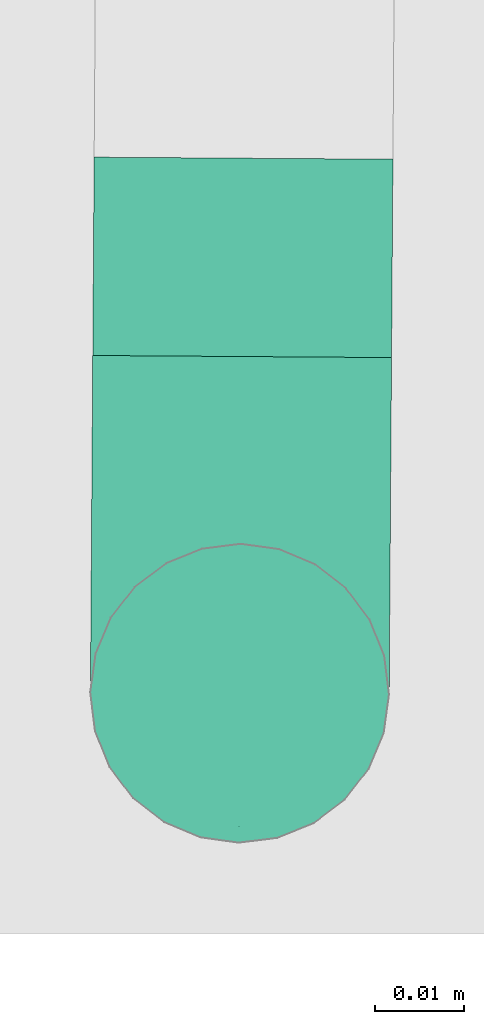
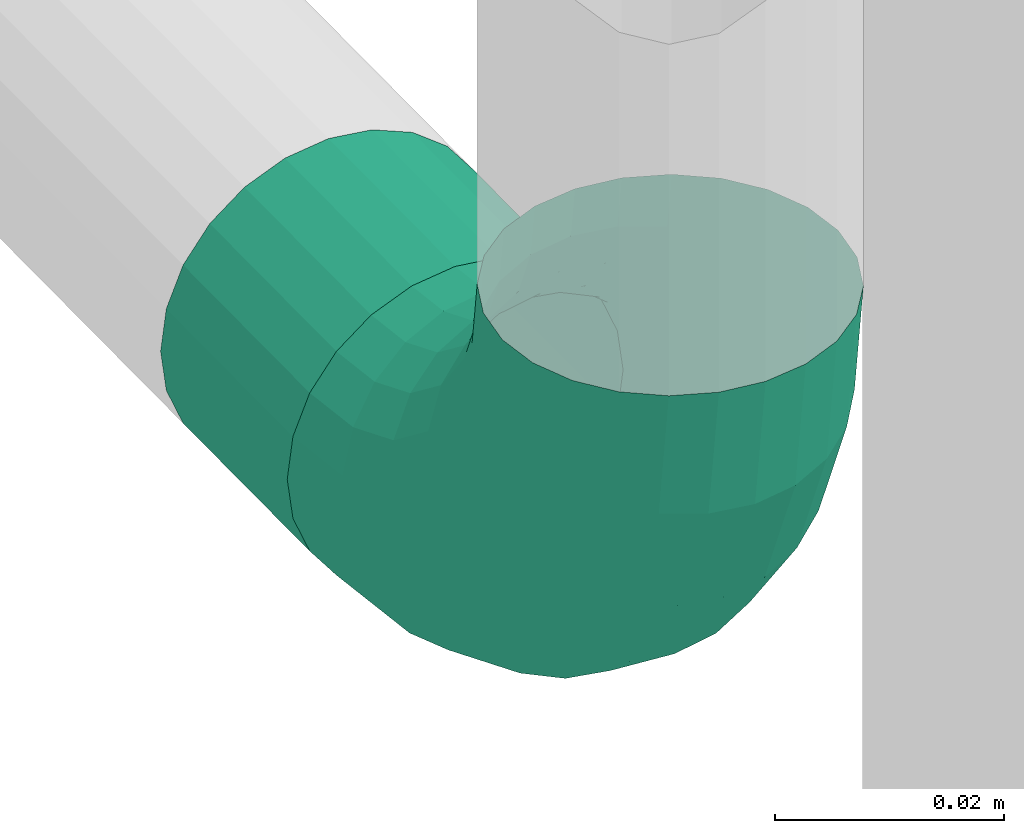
# One storey, part 347 of 374: 2 flow segments.
"""IFC2X3 building model written with IfcOpenShell, lengths in metres."""

from ifc_helpers import new_model, si_unit, direction, origin, place, context, subcontext, project, spatial, open_shell, surface_model, source, transform, mapped, element, save


model = new_model("IFC2X3")

# Units and contexts
model_context = context("Model", 3, precision=1e-05, world=origin(), true_north=direction((-0.4480736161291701, 0.8939966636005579)))
body_context = subcontext(model_context, "Body", "Model", "MODEL_VIEW")
ifc_project = project(units=[si_unit("LENGTHUNIT", "METRE"), si_unit("AREAUNIT", "SQUARE_METRE"), si_unit("VOLUMEUNIT", "CUBIC_METRE"), si_unit("PLANEANGLEUNIT", "RADIAN"), si_unit("THERMODYNAMICTEMPERATUREUNIT", "KELVIN"), si_unit("MASSUNIT", "GRAM", prefix="KILO"), si_unit("TIMEUNIT", "SECOND")], contexts=[model_context])

# Site, building, storey
site_placement = place(None, origin())
site = spatial("IfcSite", under=ifc_project, at=site_placement, Name="Site 1", CompositionType="ELEMENT")
building_placement = place(site_placement, origin())
building = spatial("IfcBuilding", under=site, at=building_placement, Name="Undefined", CompositionType="ELEMENT")
storey_placement = place(building_placement, origin())
storey = spatial("IfcBuildingStorey", under=building, at=storey_placement, Name="Rez de chauss\x8ee", CompositionType="ELEMENT", Elevation=0.0)

# Flow segments
shared_shape_1 = source(origin(), body_context, "Body", "SurfaceModel", [
    surface_model("IfcFaceBasedSurfaceModel", [(0.014318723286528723, 0.0, 8.8817842e-16), (0.01424378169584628, 0.004398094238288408, 0.0), (7.494159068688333e-05, 0.004398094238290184, 0.0), (0.0, 0.0, 0.0), (-0.013611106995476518, 0.004872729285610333, -0.0036363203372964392), (-0.01383082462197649, 0.000479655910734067, -0.003674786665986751), (-0.02588168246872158, 0.005789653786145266, -0.010661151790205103), (-0.026231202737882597, 0.0014062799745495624, -0.010773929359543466), (-0.03590056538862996, 0.007086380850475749, -0.02059576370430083), (-0.036356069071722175, 0.0027167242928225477, -0.020813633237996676), (-0.04298498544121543, 0.008674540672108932, -0.03276312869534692), (-0.0435154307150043, 0.0043216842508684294, -0.03310970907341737), (-0.046652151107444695, 0.010445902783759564, -0.04633406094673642), (-0.04722138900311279, 0.006111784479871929, -0.04682419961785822), (0.01402406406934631, 0.008643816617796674, -0.00112889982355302), (0.0002946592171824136, 0.00864381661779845, -0.001128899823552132), (-0.01296692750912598, 0.009103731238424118, -0.00465244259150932), (-0.02485694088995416, 0.009992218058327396, -0.011459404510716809), (-0.03456509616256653, 0.011248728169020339, -0.021085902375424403), (-0.041429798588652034, 0.012787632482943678, -0.03287590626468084), (-0.04498323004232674, 0.014504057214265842, -0.04602594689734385), (0.013674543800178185, 0.012447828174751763, -0.0033097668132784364), (0.0006441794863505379, 0.012447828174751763, -0.003309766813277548), (-0.011942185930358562, 0.012884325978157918, -0.006653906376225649), (-0.023226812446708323, 0.013727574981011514, -0.01311428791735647), (-0.032440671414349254, 0.014920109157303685, -0.022250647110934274), (-0.038955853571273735, 0.016380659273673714, -0.03344035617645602), (-0.04232836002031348, 0.01800969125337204, -0.04592085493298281), (0.013219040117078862, 0.01555089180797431, -0.006393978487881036), (0.0010996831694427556, 0.015550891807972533, -0.006393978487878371), (-0.010606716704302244, 0.015956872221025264, -0.009504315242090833), (-0.021102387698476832, 0.016741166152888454, -0.01551302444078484), (-0.029672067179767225, 0.01785032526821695, -0.024010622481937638), (-0.035731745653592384, 0.01920876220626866, -0.03441801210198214), (-0.038868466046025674, 0.02072390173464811, -0.04602594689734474), (0.012688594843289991, 0.01774153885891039, -0.010171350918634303), (0.0016301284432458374, 0.01774153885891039, -0.010171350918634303), (-0.009051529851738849, 0.018111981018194, -0.013009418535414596), (-0.01862844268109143, 0.01882762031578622, -0.018492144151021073), (-0.026447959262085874, 0.019839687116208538, -0.02624588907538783), (-0.03197719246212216, 0.021079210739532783, -0.03574224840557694), (-0.034839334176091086, 0.022461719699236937, -0.04633406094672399), (0.012119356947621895, 0.018870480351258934, -0.014384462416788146), (0.0021993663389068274, 0.018870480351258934, -0.014384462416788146), (-0.007382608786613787, 0.019202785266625, -0.016930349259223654), (-0.015973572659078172, 0.019844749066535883, -0.021848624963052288), (-0.022988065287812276, 0.020752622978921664, -0.02880411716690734), (-0.027948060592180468, 0.021864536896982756, -0.03732282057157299), (-0.030515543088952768, 0.023104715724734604, -0.04682419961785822), (0.0115501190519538, 0.018860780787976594, -0.01874619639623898), (0.002768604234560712, 0.018860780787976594, -0.01874619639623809), (-0.005713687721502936, 0.019154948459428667, -0.020999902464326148), (-0.013318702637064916, 0.01972323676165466, -0.025353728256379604), (-0.019528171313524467, 0.02052691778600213, -0.03151096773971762), (-0.023918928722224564, 0.021511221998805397, -0.03905201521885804), (-0.02619175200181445, 0.02260907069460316, -0.04746296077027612), (0.011019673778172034, 0.01771310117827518, -0.022959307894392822), (0.0032990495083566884, 0.01771310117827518, -0.022959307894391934), (-0.004158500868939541, 0.017971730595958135, -0.0249407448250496), (-0.010844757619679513, 0.018471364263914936, -0.028768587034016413), (-0.01630406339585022, 0.019177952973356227, -0.03418197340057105), (-0.020164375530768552, 0.0200433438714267, -0.04081199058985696), (-0.022162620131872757, 0.02100856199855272, -0.04820681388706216), (0.010564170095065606, 0.015505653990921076, -0.02673668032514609), (0.0037545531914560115, 0.015505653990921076, -0.0267366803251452), (-0.002823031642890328, 0.01573376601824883, -0.028484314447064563), (-0.008720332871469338, 0.016174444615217, -0.03186048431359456), (-0.01353545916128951, 0.016797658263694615, -0.036635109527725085), (-0.016940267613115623, 0.017560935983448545, -0.042482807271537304), (-0.018702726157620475, 0.01841226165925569, -0.04900506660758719), (0.010214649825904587, 0.012388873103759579, -0.029820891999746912), (0.004104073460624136, 0.012388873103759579, -0.029820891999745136), (-0.0017982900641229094, 0.012593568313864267, -0.03138912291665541), (-0.007090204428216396, 0.012989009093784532, -0.03441871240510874), (-0.011411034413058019, 0.013548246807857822, -0.0387031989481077), (-0.014466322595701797, 0.014233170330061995, -0.04395060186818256), (-0.01604785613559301, 0.014997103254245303, -0.0498033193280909), (0.009994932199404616, 0.008575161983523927, -0.03200175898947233), (0.004323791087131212, 0.00857516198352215, -0.03200175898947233), (-0.001154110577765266, 0.00876513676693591, -0.03345721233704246), (-0.006065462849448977, 0.009132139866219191, -0.03626893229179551), (-0.0100755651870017, 0.009651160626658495, -0.04024530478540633), (-0.012911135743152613, 0.010286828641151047, -0.04511534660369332), (-0.014378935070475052, 0.010995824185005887, -0.05054717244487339), (0.009919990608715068, 0.004324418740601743, -0.03313065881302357), (0.004398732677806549, 0.004324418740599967, -0.03313065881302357), (-0.0009343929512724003, 0.004509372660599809, -0.03454764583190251), (-0.005715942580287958, 0.004866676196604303, -0.03728505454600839), (-0.009620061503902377, 0.005371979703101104, -0.041156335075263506), (-0.012380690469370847, 0.005990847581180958, -0.04589766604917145), (-0.013809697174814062, 0.006681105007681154, -0.05118593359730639), (0.00999493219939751, -7.367549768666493e-05, -0.03313065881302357), (0.004323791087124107, -7.367549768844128e-05, -0.03313065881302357), (-0.0011541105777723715, 0.00011629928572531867, -0.03458611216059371), (-0.0060654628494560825, 0.00048330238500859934, -0.03739783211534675), (-0.010075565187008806, 0.0010023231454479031, -0.04137420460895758), (-0.012911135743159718, 0.001637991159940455, -0.04624424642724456), (-0.014378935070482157, 0.002346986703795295, -0.05167607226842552), (0.010214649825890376, -0.004319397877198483, -0.03200175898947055), (0.00410407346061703, -0.0043193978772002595, -0.03200175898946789), (-0.0017982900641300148, -0.004114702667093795, -0.03356998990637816), (-0.007090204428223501, -0.0037192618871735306, -0.036599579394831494), (-0.011411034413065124, -0.00316002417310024, -0.04088406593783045), (-0.014466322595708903, -0.002475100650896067, -0.04613146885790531), (-0.016047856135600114, -0.0017111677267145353, -0.05198418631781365), (0.0105641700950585, -0.008123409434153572, -0.029820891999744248), (0.003754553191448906, -0.008123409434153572, -0.02982089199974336), (-0.0028230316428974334, -0.007895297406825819, -0.03156852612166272), (-0.008720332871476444, -0.007454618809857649, -0.03494469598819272), (-0.013535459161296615, -0.006831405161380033, -0.03971932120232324), (-0.016940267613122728, -0.006068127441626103, -0.04556701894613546), (-0.01870272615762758, -0.005216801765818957, -0.05208927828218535), (0.011019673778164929, -0.011226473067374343, -0.026736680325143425), (0.003299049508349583, -0.011226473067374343, -0.026736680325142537), (-0.004158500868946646, -0.010967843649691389, -0.028718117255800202), (-0.010844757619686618, -0.010468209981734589, -0.032545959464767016), (-0.016304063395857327, -0.009761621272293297, -0.037959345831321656), (-0.020164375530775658, -0.008896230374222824, -0.044589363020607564), (-0.022162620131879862, -0.007931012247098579, -0.051984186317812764), (0.011550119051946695, -0.013417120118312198, -0.02295930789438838), (0.0027686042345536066, -0.013417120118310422, -0.022959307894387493), (-0.005713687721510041, -0.013122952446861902, -0.02521301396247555), (-0.013318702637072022, -0.012554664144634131, -0.029566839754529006), (-0.019528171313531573, -0.011750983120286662, -0.035724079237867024), (-0.02391892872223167, -0.010766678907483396, -0.04326512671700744), (-0.026191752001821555, -0.009668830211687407, -0.05167607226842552), (0.01211935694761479, -0.014546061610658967, -0.018746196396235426), (0.002199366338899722, -0.014546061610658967, -0.018746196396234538), (-0.007382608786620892, -0.0142137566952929, -0.021292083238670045), (-0.015973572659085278, -0.013571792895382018, -0.02621035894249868), (-0.02298806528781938, -0.012663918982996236, -0.03316585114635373), (-0.027948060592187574, -0.011552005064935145, -0.04168455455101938), (-0.030515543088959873, -0.010311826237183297, -0.05118593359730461), (0.012688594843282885, -0.014536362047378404, -0.014384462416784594), (0.001630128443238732, -0.014536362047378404, -0.014384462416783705), (-0.009051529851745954, -0.014165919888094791, -0.017222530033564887), (-0.018628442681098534, -0.013450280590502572, -0.022705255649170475), (-0.02644795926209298, -0.012438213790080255, -0.03045900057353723), (-0.03197719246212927, -0.011198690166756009, -0.03995535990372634), (-0.03483933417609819, -0.009816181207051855, -0.05054717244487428), (0.013219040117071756, -0.013388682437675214, -0.010171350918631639), (0.0010996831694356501, -0.01338868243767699, -0.010171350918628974), (-0.010606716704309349, -0.01298270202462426, -0.013281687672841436), (-0.021102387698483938, -0.01219840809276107, -0.019290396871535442), (-0.02967206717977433, -0.011089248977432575, -0.02778799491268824), (-0.03573174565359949, -0.009730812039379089, -0.038195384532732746), (-0.03886846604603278, -0.008215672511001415, -0.04980331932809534), (0.01367454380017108, -0.011181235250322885, -0.006393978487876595), (0.0006441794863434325, -0.011181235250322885, -0.006393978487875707), (-0.011942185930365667, -0.01074473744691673, -0.009738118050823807), (-0.023226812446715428, -0.009901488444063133, -0.01619849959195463), (-0.03244067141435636, -0.008708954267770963, -0.02533485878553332), (-0.03895585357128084, -0.007248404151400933, -0.03652456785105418), (-0.04232836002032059, -0.005619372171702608, -0.04900506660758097), (0.014024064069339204, -0.008064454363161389, -0.003309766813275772), (0.0002946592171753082, -0.008064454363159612, -0.0033097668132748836), (-0.012966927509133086, -0.0076045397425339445, -0.006833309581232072), (-0.024856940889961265, -0.0067160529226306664, -0.01364027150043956), (-0.03456509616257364, -0.005459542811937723, -0.023266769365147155), (-0.04142979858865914, -0.003920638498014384, -0.03505677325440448), (-0.044983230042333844, -0.00220421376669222, -0.0482068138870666), (0.014243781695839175, -0.004250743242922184, -0.0011288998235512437), (7.494159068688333e-05, -0.004250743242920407, -0.0011288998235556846), (-0.013611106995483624, -0.0037761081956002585, -0.004765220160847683), (-0.025881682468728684, -0.002859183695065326, -0.011790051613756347), (-0.03590056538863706, -0.001562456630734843, -0.021724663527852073), (-0.04298498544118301, 2.5703190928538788e-05, -0.03389202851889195), (-0.0466521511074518, 0.0017970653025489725, -0.047462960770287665)], [open_shell([[[0, 1, 2, 3]], [[3, 2, 4, 5]], [[5, 4, 6, 7]], [[7, 6, 8, 9]], [[9, 8, 10, 11]], [[11, 10, 12, 13]], [[1, 14, 15, 2]], [[2, 15, 16, 4]], [[4, 16, 17, 6]], [[6, 17, 18, 8]], [[8, 18, 19, 10]], [[10, 19, 20, 12]], [[14, 21, 22, 15]], [[15, 22, 23, 16]], [[16, 23, 24, 17]], [[17, 24, 25, 18]], [[18, 25, 26, 19]], [[19, 26, 27, 20]], [[21, 28, 29, 22]], [[22, 29, 30, 23]], [[23, 30, 31, 24]], [[24, 31, 32, 25]], [[25, 32, 33, 26]], [[26, 33, 34, 27]], [[28, 35, 36, 29]], [[29, 36, 37, 30]], [[30, 37, 38, 31]], [[31, 38, 39, 32]], [[32, 39, 40, 33]], [[33, 40, 41, 34]], [[35, 42, 43, 36]], [[36, 43, 44, 37]], [[37, 44, 45, 38]], [[38, 45, 46, 39]], [[39, 46, 47, 40]], [[40, 47, 48, 41]], [[42, 49, 50, 43]], [[43, 50, 51, 44]], [[44, 51, 52, 45]], [[45, 52, 53, 46]], [[46, 53, 54, 47]], [[47, 54, 55, 48]], [[49, 56, 57, 50]], [[50, 57, 58, 51]], [[51, 58, 59, 52]], [[52, 59, 60, 53]], [[53, 60, 61, 54]], [[54, 61, 62, 55]], [[56, 63, 64, 57]], [[57, 64, 65, 58]], [[58, 65, 66, 59]], [[59, 66, 67, 60]], [[60, 67, 68, 61]], [[61, 68, 69, 62]], [[63, 70, 71, 64]], [[64, 71, 72, 65]], [[65, 72, 73, 66]], [[66, 73, 74, 67]], [[67, 74, 75, 68]], [[68, 75, 76, 69]], [[70, 77, 78, 71]], [[71, 78, 79, 72]], [[72, 79, 80, 73]], [[73, 80, 81, 74]], [[74, 81, 82, 75]], [[75, 82, 83, 76]], [[77, 84, 85, 78]], [[78, 85, 86, 79]], [[79, 86, 87, 80]], [[80, 87, 88, 81]], [[81, 88, 89, 82]], [[82, 89, 90, 83]], [[84, 91, 92, 85]], [[85, 92, 93, 86]], [[86, 93, 94, 87]], [[87, 94, 95, 88]], [[88, 95, 96, 89]], [[89, 96, 97, 90]], [[91, 98, 99, 92]], [[92, 99, 100, 93]], [[93, 100, 101, 94]], [[94, 101, 102, 95]], [[95, 102, 103, 96]], [[96, 103, 104, 97]], [[98, 105, 106, 99]], [[99, 106, 107, 100]], [[100, 107, 108, 101]], [[101, 108, 109, 102]], [[102, 109, 110, 103]], [[103, 110, 111, 104]], [[105, 112, 113, 106]], [[106, 113, 114, 107]], [[107, 114, 115, 108]], [[108, 115, 116, 109]], [[109, 116, 117, 110]], [[110, 117, 118, 111]], [[112, 119, 120, 113]], [[113, 120, 121, 114]], [[114, 121, 122, 115]], [[115, 122, 123, 116]], [[116, 123, 124, 117]], [[117, 124, 125, 118]], [[119, 126, 127, 120]], [[120, 127, 128, 121]], [[121, 128, 129, 122]], [[122, 129, 130, 123]], [[123, 130, 131, 124]], [[124, 131, 132, 125]], [[126, 133, 134, 127]], [[127, 134, 135, 128]], [[128, 135, 136, 129]], [[129, 136, 137, 130]], [[130, 137, 138, 131]], [[131, 138, 139, 132]], [[133, 140, 141, 134]], [[134, 141, 142, 135]], [[135, 142, 143, 136]], [[136, 143, 144, 137]], [[137, 144, 145, 138]], [[138, 145, 146, 139]], [[140, 147, 148, 141]], [[141, 148, 149, 142]], [[142, 149, 150, 143]], [[143, 150, 151, 144]], [[144, 151, 152, 145]], [[145, 152, 153, 146]], [[147, 154, 155, 148]], [[148, 155, 156, 149]], [[149, 156, 157, 150]], [[150, 157, 158, 151]], [[151, 158, 159, 152]], [[152, 159, 160, 153]], [[154, 161, 162, 155]], [[155, 162, 163, 156]], [[156, 163, 164, 157]], [[157, 164, 165, 158]], [[158, 165, 166, 159]], [[159, 166, 167, 160]], [[161, 0, 3, 162]], [[162, 3, 5, 163]], [[163, 5, 7, 164]], [[164, 7, 9, 165]], [[165, 9, 11, 166]], [[166, 11, 13, 167]]])]),
])
flow_segment_1_placement = place(storey_placement, origin())
element("IfcFlowSegment", 1, at=flow_segment_1_placement, inside=storey, Name="Tube coudé", ObjectType="Tube coudé", context=body_context, shape_type="MappedRepresentation", body=[
    mapped(shared_shape_1, transform((52.91546538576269, 10.872991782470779, 4.098113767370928), x_axis=(-0.00091123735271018, -0.13052301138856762, 0.9914448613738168), y_axis=(-0.9906687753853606, 0.13524044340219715, 0.016893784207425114), z_axis=(-0.13628847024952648, -0.9821780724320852, -0.12942830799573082))),
])
shared_shape_2 = source(origin(), body_context, "Body", "SurfaceModel", [
    surface_model("IfcFaceBasedSurfaceModel", [(0.022370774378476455, 0.0, 0.0), (0.022370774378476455, 0.004398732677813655, 0.0), (0.0, 0.004398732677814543, 0.0), (0.0, 0.0, 0.0), (0.02237077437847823, 0.00864758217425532, -0.0011384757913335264), (0.0, 0.00864758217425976, -0.0011384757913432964), (0.02237077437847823, 0.012456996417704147, -0.003337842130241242), (0.0, 0.012456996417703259, -0.0033378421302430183), (0.02237077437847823, 0.015567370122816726, -0.0064482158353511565), (0.0, 0.015567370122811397, -0.006448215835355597), (0.022370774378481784, 0.017766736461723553, -0.010257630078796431), (0.0, 0.01776673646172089, -0.01025763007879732), (0.02237077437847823, 0.01890521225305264, -0.01450647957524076), (0.0, 0.018905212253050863, -0.01450647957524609), (0.022370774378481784, 0.018905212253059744, -0.018905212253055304), (0.0, 0.018905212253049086, -0.01890521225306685), (0.02237077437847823, 0.017766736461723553, -0.02315406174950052), (0.0, 0.017766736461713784, -0.023154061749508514), (0.02237077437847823, 0.015567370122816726, -0.026963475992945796), (0.0, 0.01556737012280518, -0.026963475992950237), (0.02237077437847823, 0.012456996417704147, -0.03007384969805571), (0.0, 0.012456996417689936, -0.030073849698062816), (0.022370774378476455, 0.008647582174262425, -0.032273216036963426), (0.0, 0.008647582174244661, -0.03227321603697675), (0.022370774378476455, 0.004398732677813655, -0.03341169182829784), (0.0, 0.00439873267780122, -0.03341169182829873), (0.022370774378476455, 0.0, -0.03341169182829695), (0.0, -1.5099033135e-14, -0.03341169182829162), (0.022370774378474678, -0.00424884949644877, -0.0322732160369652), (0.0, -0.004248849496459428, -0.03227321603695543), (0.022370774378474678, -0.008058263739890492, -0.0300738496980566), (0.0, -0.008058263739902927, -0.03007384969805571), (0.022370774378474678, -0.011168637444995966, -0.026963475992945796), (0.0, -0.011168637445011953, -0.02696347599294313), (0.022370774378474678, -0.013368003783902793, -0.02315406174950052), (0.0, -0.013368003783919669, -0.023154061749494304), (0.022370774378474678, -0.014506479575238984, -0.01890521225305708), (0.0, -0.01450647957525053, -0.01890521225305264), (0.022370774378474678, -0.014506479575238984, -0.014506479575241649), (0.0, -0.014506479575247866, -0.014506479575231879), (0.022370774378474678, -0.013368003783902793, -0.010257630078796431), (0.0, -0.013368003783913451, -0.010257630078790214), (0.022370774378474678, -0.011168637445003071, -0.006448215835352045), (0.0, -0.01116863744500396, -0.0064482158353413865), (0.022370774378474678, -0.008058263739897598, -0.0033378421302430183), (0.0, -0.008058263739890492, -0.003337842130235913), (0.022370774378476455, -0.00424884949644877, -0.0011384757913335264), (0.0, -0.004248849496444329, -0.00113847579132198)], [open_shell([[[0, 1, 2, 3]], [[1, 4, 5, 2]], [[4, 6, 7, 5]], [[6, 8, 9, 7]], [[8, 10, 11, 9]], [[10, 12, 13, 11]], [[12, 14, 15, 13]], [[14, 16, 17, 15]], [[16, 18, 19, 17]], [[18, 20, 21, 19]], [[20, 22, 23, 21]], [[22, 24, 25, 23]], [[24, 26, 27, 25]], [[26, 28, 29, 27]], [[28, 30, 31, 29]], [[30, 32, 33, 31]], [[32, 34, 35, 33]], [[34, 36, 37, 35]], [[36, 38, 39, 37]], [[38, 40, 41, 39]], [[40, 42, 43, 41]], [[42, 44, 45, 43]], [[44, 46, 47, 45]], [[46, 0, 3, 47]]])]),
])
flow_segment_2_placement = place(storey_placement, origin())
element("IfcFlowSegment", 2, at=flow_segment_2_placement, inside=storey, Name="Tube acier d'après DIN 2448", ObjectType="Tube acier d'après DIN 2448", context=body_context, shape_type="MappedRepresentation", body=[
    mapped(shared_shape_2, transform((52.9158352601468, 10.925971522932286, 4.057459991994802), x_axis=(0.0069812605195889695, 0.9999756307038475, 0.0), y_axis=(0.9914207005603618, -0.0069215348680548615, 0.1305261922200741), z_axis=(0.13052301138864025, -0.0009112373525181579, -0.9914448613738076))),
])

save(model, "model.ifc")
